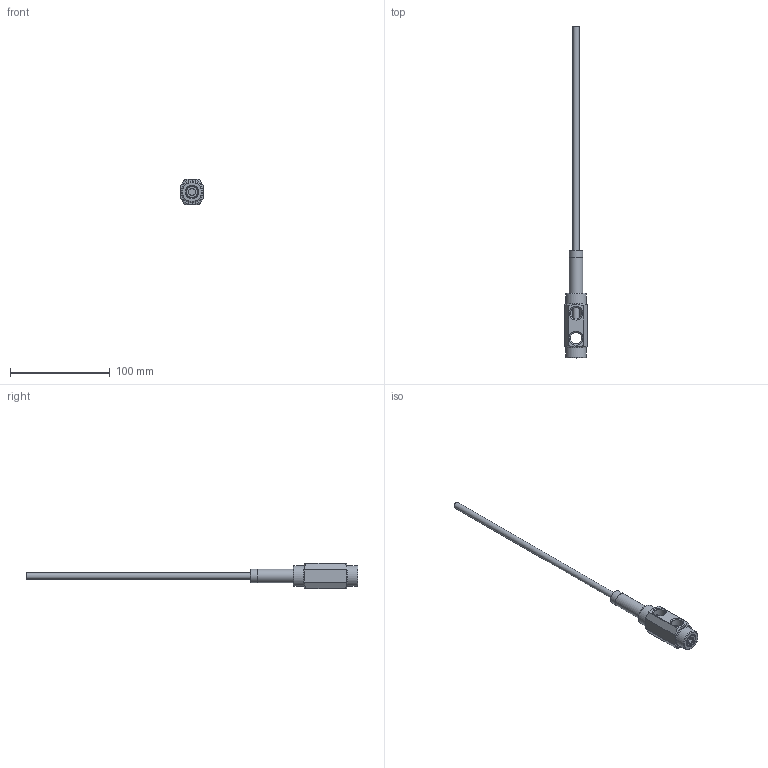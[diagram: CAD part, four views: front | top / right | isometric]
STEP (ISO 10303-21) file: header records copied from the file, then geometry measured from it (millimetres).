
FILE_DESCRIPTION(/* description */ (''),/* implementation_level */ '2;1');
FILE_NAME(/* name */ 'C:/Users/drich/Desktop/141N-RL v1.step',/* time_stamp */ '2020-01-15T19:47:57-06:00',/* author */ (''),/* organization */ (''),/* preprocessor_version */ 'ST-DEVELOPER v18',/* originating_system */ 'Autodesk Translation Framework v8.12.0.6',/* authorisation */ '');
FILE_SCHEMA (('AUTOMOTIVE_DESIGN { 1 0 10303 214 3 1 1 }'));
Length unit declared in the file: inch
Products named in the file (5): 141N-RL; 141H-4-RL; SSPN14-2; PT18-250-12; BF-14
Assembly tree (4 placements, depth 2):
  141N-RL
    141H-4-RL
    SSPN14-2
    PT18-250-12
    BF-14
Bounding box: 22.2 x 333.42 x 25.4 mm (x, y, z)
Volume: 27243.4 mm3; surface area: 24622.4 mm2
Topology: 4 solids, 4 shells, 88 faces, 236 edges, 164 vertices
Faces by surface type: plane 37, cone 24, cylinder 21, torus 6
Full cylindrical faces by diameter (mm): 5.842 x1, 6.35 x1, 7.925 x1, 8.707 x1, 9.246 x1, 9.621 x1, 11.668 x5, 13.032 x1, 13.665 x2, 13.716 x1, 20.625 x2
Entity records: 3011 total; most frequent: CARTESIAN_POINT 594, DIRECTION 512, ORIENTED_EDGE 472, EDGE_CURVE 236, AXIS2_PLACEMENT_3D 217, VERTEX_POINT 164, CIRCLE 112, EDGE_LOOP 108
